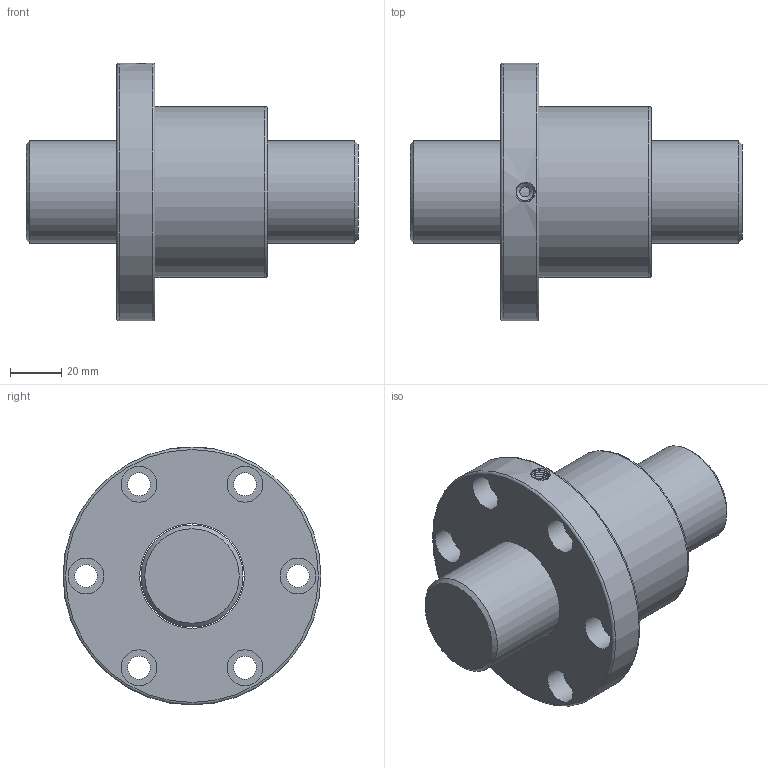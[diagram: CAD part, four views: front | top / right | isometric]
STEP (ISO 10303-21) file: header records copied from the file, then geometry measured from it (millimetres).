
FILE_DESCRIPTION(/* description */ ('Unknown','CAx-IF Rec.Pracs.---Representation and Presentation of Product Manufacturing Information (PMI)---4.0---2014-10-13','CAx-IF Rec.Pracs.---3D Tessellated Geometry---0.4---2014-09-14','2;1'),/* implementation_level */ '2;1');
FILE_NAME(/* name */ 'SFV4005-4.8',/* time_stamp */ '2020-12-08T10:58:35+08:00',/* author */ ('Unknown'),/* organization */ ('Unknown'),/* preprocessor_version */ 'ST-DEVELOPER v16.7',/* originating_system */ 'Solid Edge',/* authorisation */ 'Unknown');
FILE_SCHEMA (('AP242_MANAGED_MODEL_BASED_3D_ENGINEERING_MIM_LF { 1 0 10303 442 1 1 4 }'));
Length unit declared in the file: millimetre
Products named in the file (1): SFV4005-4.8
Bounding box: 130 x 101 x 101 mm (x, y, z)
Volume: 349360.8 mm3; surface area: 56370.1 mm2
Topology: 2 solids, 2 shells, 40 faces, 89 edges, 58 vertices
Faces by surface type: cylinder 20, plane 12, torus 3, cone 3, bspline 2
Full cylindrical faces by diameter (mm): 4 x1, 6.917 x1, 9 x6, 14 x6, 40 x1, 41 x1, 67 x1, 101 x1
Entity records: 3090 total; most frequent: CARTESIAN_POINT 2254, DIRECTION 168, ORIENTED_EDGE 106, EDGE_LOOP 87, FACE_BOUND 87, AXIS2_PLACEMENT_3D 85, EDGE_CURVE 53, VERTEX_POINT 48
